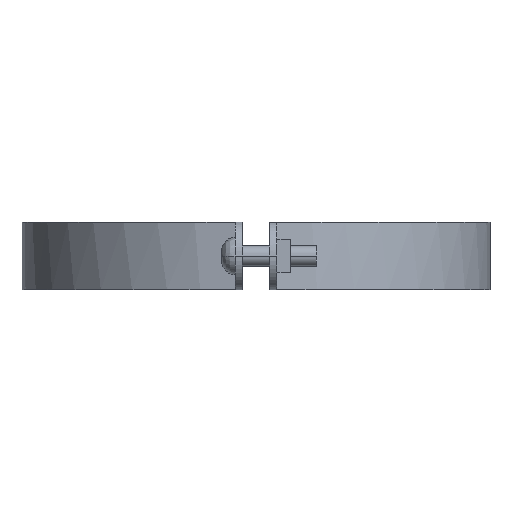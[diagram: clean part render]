
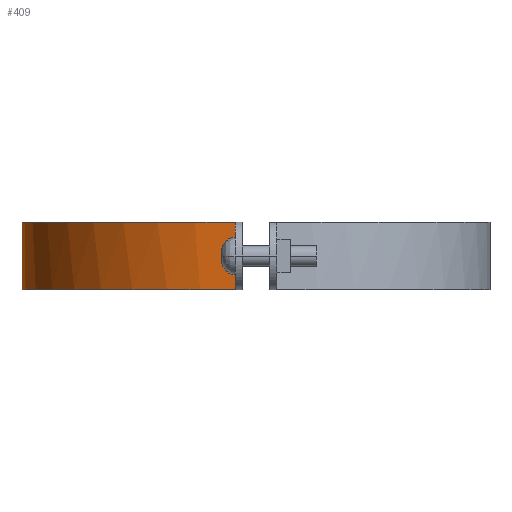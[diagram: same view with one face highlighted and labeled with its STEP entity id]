
A CAD part, left-side view. The second image highlights one B-rep face of the part: STEP entity #409.
In plain terms, the highlighted free-form (B-spline) face has degree [3, 1] with [4, 2] control points.
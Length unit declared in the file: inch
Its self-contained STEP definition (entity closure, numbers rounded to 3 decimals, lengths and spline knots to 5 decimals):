
#409=ADVANCED_FACE('',(#1045),#1046,.T.);
#445=EDGE_CURVE('',#1099,#1096,#1100,.T.);
#477=EDGE_CURVE('',#1144,#1145,#1146,.T.);
#517=EDGE_CURVE('',#1096,#1145,#1207,.T.);
#731=EDGE_CURVE('',#1144,#1099,#1488,.T.);
#1045=FACE_OUTER_BOUND('',#1945,.T.);
#1046=B_SPLINE_SURFACE_WITH_KNOTS('',3,1,((#1946,#1947),(#1948,#1949),(#1950,#1951),(#1952,#1953)),.UNSPECIFIED.,.F.,.F.,.F.,(4,4),(2,2),(0.0,1.0),(0.0,1.254),.UNSPECIFIED.);
#1096=VERTEX_POINT('',#2138);
#1099=VERTEX_POINT('',#2143);
#1100=LINE('',#2144,#2145);
#1144=VERTEX_POINT('',#2222);
#1145=VERTEX_POINT('',#2223);
#1146=LINE('',#2224,#2225);
#1207=B_SPLINE_CURVE_WITH_KNOTS('',3,(#2324,#2325,#2326,#2327),.UNSPECIFIED.,.F.,.F.,(4,4),(-1.0,-0.0),.UNSPECIFIED.);
#1488=B_SPLINE_CURVE_WITH_KNOTS('',3,(#2939,#2940,#2941,#2942),.UNSPECIFIED.,.F.,.F.,(4,4),(0.0,1.0),.UNSPECIFIED.);
#1945=EDGE_LOOP('',(#3588,#3589,#3590,#3591));
#1946=CARTESIAN_POINT('',(4.99716,8.63857,0.0));
#1947=CARTESIAN_POINT('',(4.99716,8.63857,1.254));
#1948=CARTESIAN_POINT('',(2.76049,8.63857,0.0));
#1949=CARTESIAN_POINT('',(2.76049,8.63857,1.254));
#1950=CARTESIAN_POINT('',(0.89372,6.93129,0.0));
#1951=CARTESIAN_POINT('',(0.89372,6.93129,1.254));
#1952=CARTESIAN_POINT('',(0.6945,4.70351,0.0));
#1953=CARTESIAN_POINT('',(0.6945,4.70351,1.254));
#2138=CARTESIAN_POINT('',(0.6945,4.70351,1.25192));
#2143=CARTESIAN_POINT('',(0.6945,4.70351,0.00211));
#2144=CARTESIAN_POINT('',(0.6945,4.70351,0.0));
#2145=VECTOR('',#3655,1.0);
#2222=CARTESIAN_POINT('',(4.99716,8.63857,0.00211));
#2223=CARTESIAN_POINT('',(4.99716,8.63857,1.25192));
#2224=CARTESIAN_POINT('',(4.99716,8.63857,0.0));
#2225=VECTOR('',#3709,1.0);
#2324=CARTESIAN_POINT('',(0.6945,4.70351,1.25192));
#2325=CARTESIAN_POINT('',(0.89372,6.93129,1.25192));
#2326=CARTESIAN_POINT('',(2.76049,8.63857,1.25192));
#2327=CARTESIAN_POINT('',(4.99716,8.63857,1.25192));
#2939=CARTESIAN_POINT('',(4.99716,8.63857,0.00211));
#2940=CARTESIAN_POINT('',(2.76049,8.63857,0.00211));
#2941=CARTESIAN_POINT('',(0.89372,6.93129,0.00211));
#2942=CARTESIAN_POINT('',(0.6945,4.70351,0.00211));
#3588=ORIENTED_EDGE('',*,*,#731,.T.);
#3589=ORIENTED_EDGE('',*,*,#445,.T.);
#3590=ORIENTED_EDGE('',*,*,#517,.T.);
#3591=ORIENTED_EDGE('',*,*,#477,.F.);
#3655=DIRECTION('',(0.0,0.0,1.0));
#3709=DIRECTION('',(0.0,0.0,1.0));
